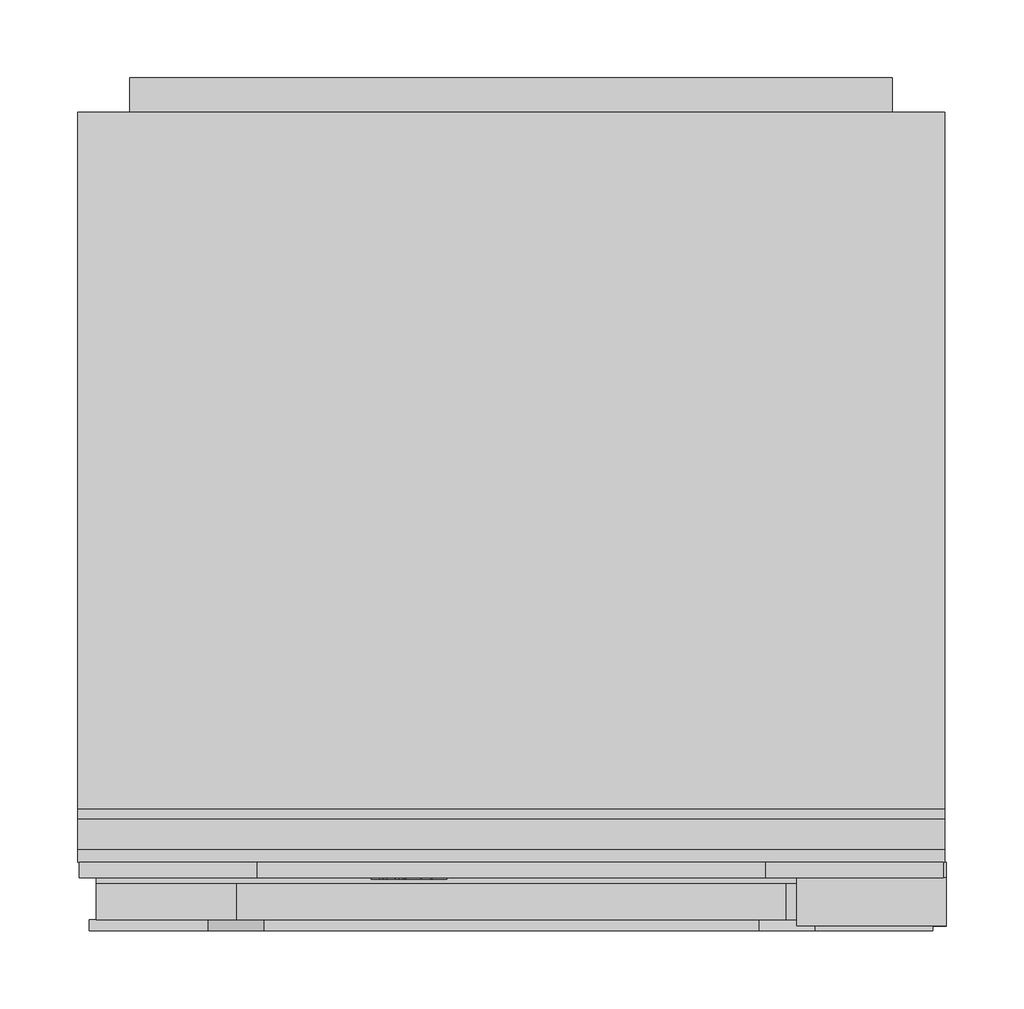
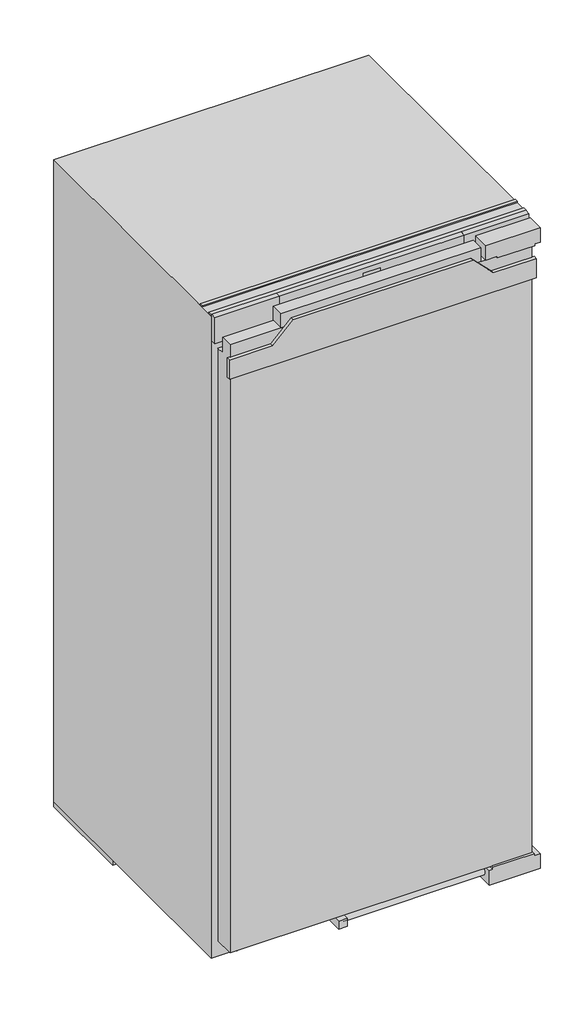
# Not in any storey: 1 proxy.
"""IFC4 building model written with IfcOpenShell, lengths in millimetres."""

from ifc_helpers import new_model, si_unit, origin, place, context, project, spatial, transform, mapped, element, save
from components import specialty_equipment_ab32d752

model = new_model("IFC4")

# Units and contexts
model_context = context("Model", 3, world=origin())
ifc_project = project(units=[si_unit("LENGTHUNIT", "METRE", prefix="MILLI")], contexts=[model_context])

# Site, building
site = spatial("IfcSite", under=ifc_project)
building = spatial("IfcBuilding", under=site)

# Proxy
placement = place(None, origin())
specialty_equipment_shape = specialty_equipment_ab32d752(model_context)
element("IfcBuildingElementProxy", 1, Name="12443730_EU1_K7347C : 36734700_EU1_12443730_K7347C", ObjectType="12443730_EU1_K7347C : 36734700_EU1_12443730_K7347C", at=placement, inside=building, context=model_context, shape_type="MappedRepresentation", body=[
    mapped(specialty_equipment_shape, transform((0.0, 0.0, 0.0), x_axis=(1.0, 0.0, 0.0), y_axis=(0.0, 1.0, 0.0), z_axis=(0.0, 0.0, 1.0))),
])

save(model, "model.ifc")
